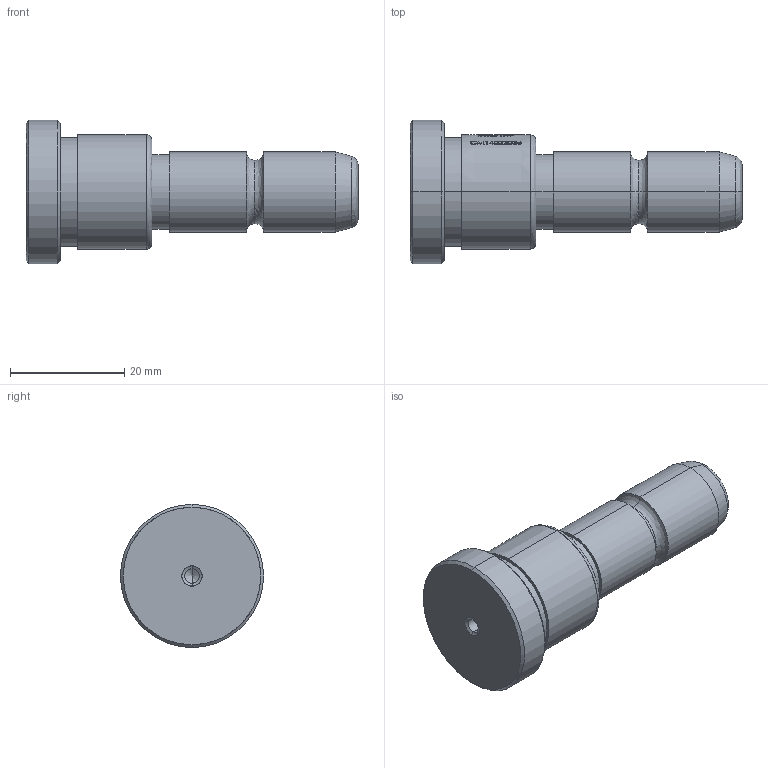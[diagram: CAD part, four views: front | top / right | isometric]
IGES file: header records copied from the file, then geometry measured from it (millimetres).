
Start section: SolidWorks IGES file using analytic representation for surfaces
Global section: file name: D:\TRIVECTOR\2026\08_Agosto\CM - COLUNA PRINCIPAL E31 (CATÁLOGO)\CM14022036.IGS; native system: SolidWorks 2024; preprocessor: SolidWorks 2024; author: Usuario; date: 260828.190311; units: millimetre
Bounding box: 58 x 25 x 25 mm (x, y, z)
Surface area: 4159.8 mm2 (no closed solid volume)
Topology: 0 solids, 0 shells, 465 faces, 4236 edges, 4232 vertices
Faces by surface type: bspline 389, revolution 76
